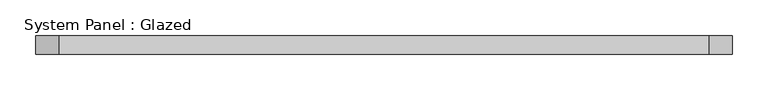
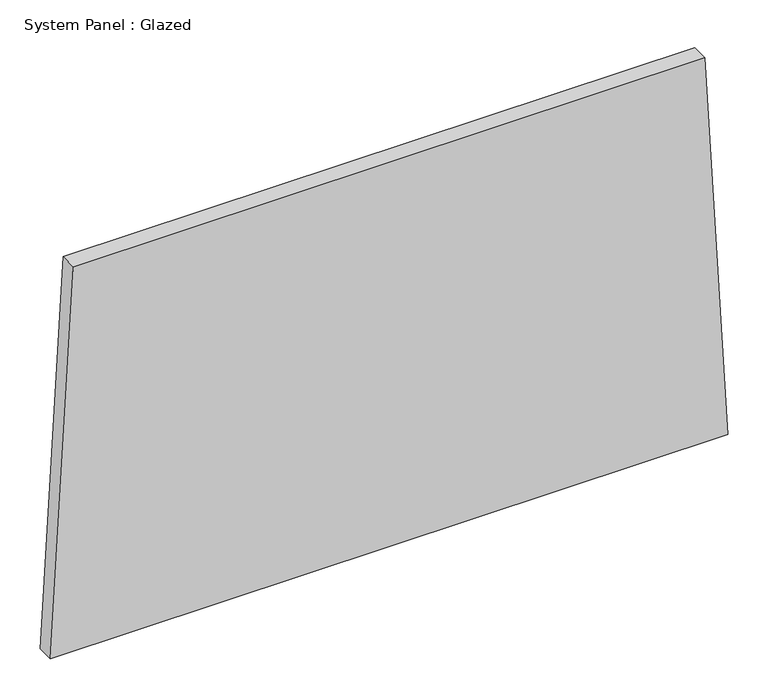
"""IFC4 building model written with IfcOpenShell, lengths in millimetres: plate geometry, System Panel : Glazed."""

from ifc_helpers import new_model, si_unit, frame, origin, place, context, project, spatial, polyline, outline, extrude, source, transform, mapped, element, save


def system_panel_glazed_6d01105a(model_context):
    return source(origin(), model_context, "Body", "SweptSolid", [
        extrude(outline(polyline([(0.0, -485.7931411), (0.0, 485.7931411), (583.2378441, 452.9854625), (583.2378441, -452.9854625), (0.0, -485.7931411)])), frame((0.0, 19.05, 0.0), z_axis=(0.0, 1.0, 0.0), x_axis=(0.0, 0.0, 1.0)), (0.0, 0.0, 1.0), 25.4),
    ])


if __name__ == "__main__":
    model = new_model("IFC4")
    model_context = context("Model", 3, world=origin())
    ifc_project = project(units=[si_unit("LENGTHUNIT", "METRE", prefix="MILLI")], contexts=[model_context])
    site = spatial("IfcSite", under=ifc_project)
    building = spatial("IfcBuilding", under=site)
    placement = place(None, origin())
    system_panel_glazed_shape = system_panel_glazed_6d01105a(model_context)
    element("IfcPlate", 1, ObjectType="System Panel : Glazed", at=placement, inside=building, context=model_context, shape_type="MappedRepresentation", body=[
        mapped(system_panel_glazed_shape, transform((0.0, 0.0, 0.0), x_axis=(1.0, 0.0, 0.0), y_axis=(0.0, 1.0, 0.0), z_axis=(0.0, 0.0, 1.0))),
    ])
    save(model, "model.ifc")
